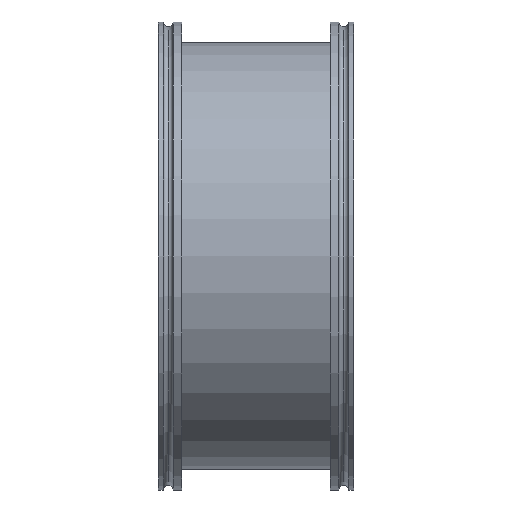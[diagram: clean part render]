
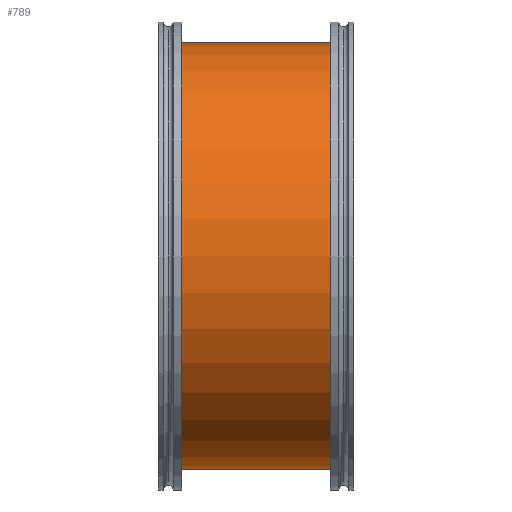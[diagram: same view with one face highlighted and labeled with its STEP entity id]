
A CAD part, left-side view. The second image highlights one B-rep face of the part: STEP entity #789.
In plain terms, the highlighted cylindrical face has radius 109.5 mm (diameter 219 mm), a partial arc.
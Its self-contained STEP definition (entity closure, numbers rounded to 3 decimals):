
#35 = CARTESIAN_POINT ( 'NONE',  ( 0., 92., 0. ) ) ;
#56 = DIRECTION ( 'NONE',  ( 0., 1., 0. ) ) ;
#59 = EDGE_CURVE ( 'NONE', #575, #1153, #1193, .T. ) ;
#70 = VECTOR ( 'NONE', #427, 1000. ) ;
#128 = CARTESIAN_POINT ( 'NONE',  ( 0., 92., 109.5 ) ) ;
#176 = AXIS2_PLACEMENT_3D ( 'NONE', #35, #644, #753 ) ;
#179 = EDGE_CURVE ( 'NONE', #1153, #540, #883, .T. ) ;
#204 = CARTESIAN_POINT ( 'NONE',  ( 0., 92., 109.5 ) ) ;
#225 = ORIENTED_EDGE ( 'NONE', *, *, #179, .F. ) ;
#242 = DIRECTION ( 'NONE',  ( 0., 0., 1. ) ) ;
#275 = CYLINDRICAL_SURFACE ( 'NONE', #176, 109.5 ) ;
#285 = CARTESIAN_POINT ( 'NONE',  ( 0., 92., 0. ) ) ;
#312 = EDGE_LOOP ( 'NONE', ( #225, #885, #434, #1026 ) ) ;
#407 = CARTESIAN_POINT ( 'NONE',  ( 0., 8., 109.5 ) ) ;
#427 = DIRECTION ( 'NONE',  ( 0., -1., 0. ) ) ;
#434 = ORIENTED_EDGE ( 'NONE', *, *, #481, .T. ) ;
#481 = EDGE_CURVE ( 'NONE', #575, #972, #645, .T. ) ;
#529 = CARTESIAN_POINT ( 'NONE',  ( 0., 92., -109.5 ) ) ;
#540 = VERTEX_POINT ( 'NONE', #407 ) ;
#545 = DIRECTION ( 'NONE',  ( 0., 0., 1. ) ) ;
#575 = VERTEX_POINT ( 'NONE', #529 ) ;
#595 = EDGE_CURVE ( 'NONE', #972, #540, #858, .T. ) ;
#644 = DIRECTION ( 'NONE',  ( 0., -1., 0. ) ) ;
#645 = LINE ( 'NONE', #886, #959 ) ;
#747 = DIRECTION ( 'NONE',  ( 0., 1., 0. ) ) ;
#753 = DIRECTION ( 'NONE',  ( 0., 0., -1. ) ) ;
#789 = ADVANCED_FACE ( 'NONE', ( #922 ), #275, .T. ) ;
#858 = CIRCLE ( 'NONE', #904, 109.5 ) ;
#883 = LINE ( 'NONE', #204, #70 ) ;
#885 = ORIENTED_EDGE ( 'NONE', *, *, #59, .F. ) ;
#886 = CARTESIAN_POINT ( 'NONE',  ( 0., 92., -109.5 ) ) ;
#904 = AXIS2_PLACEMENT_3D ( 'NONE', #963, #56, #242 ) ;
#922 = FACE_OUTER_BOUND ( 'NONE', #312, .T. ) ;
#959 = VECTOR ( 'NONE', #1071, 1000. ) ;
#963 = CARTESIAN_POINT ( 'NONE',  ( 0., 8., 0. ) ) ;
#972 = VERTEX_POINT ( 'NONE', #1069 ) ;
#979 = AXIS2_PLACEMENT_3D ( 'NONE', #285, #747, #545 ) ;
#1026 = ORIENTED_EDGE ( 'NONE', *, *, #595, .T. ) ;
#1069 = CARTESIAN_POINT ( 'NONE',  ( 0., 8., -109.5 ) ) ;
#1071 = DIRECTION ( 'NONE',  ( 0., -1., 0. ) ) ;
#1153 = VERTEX_POINT ( 'NONE', #128 ) ;
#1193 = CIRCLE ( 'NONE', #979, 109.5 ) ;
